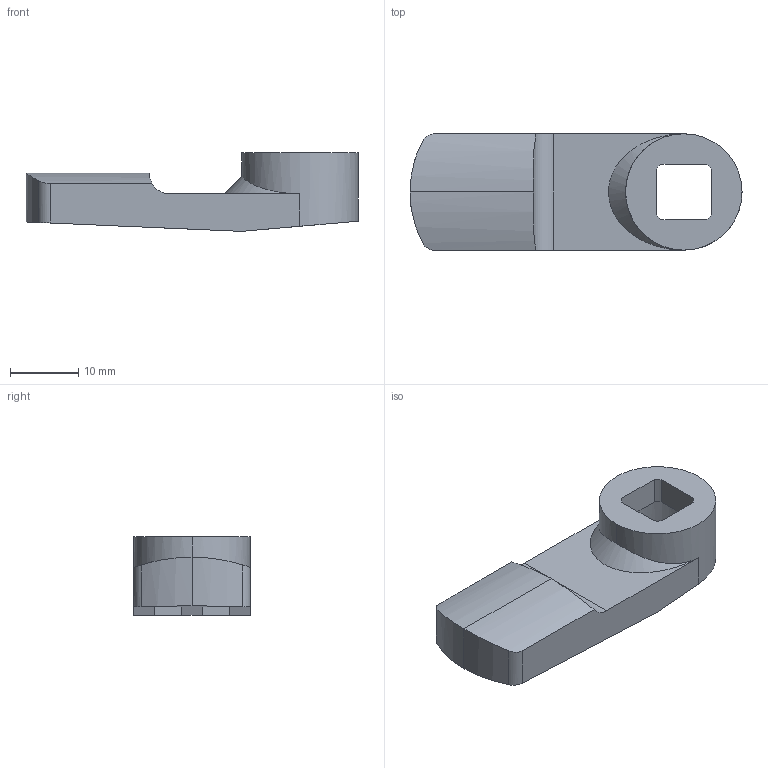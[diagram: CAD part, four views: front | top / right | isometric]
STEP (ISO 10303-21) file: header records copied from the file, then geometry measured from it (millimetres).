
FILE_DESCRIPTION (( 'STEP AP214' ), '1' );
FILE_NAME ('JP-10021.STEP', '2016-08-17T10:01:59', ( 'RST-Dolba' ), ( '' ), 'SwSTEP 2.0', 'SolidWorks 2015', '' );
FILE_SCHEMA (( 'AUTOMOTIVE_DESIGN' ));
Length unit declared in the file: millimetre
Products named in the file (1): JP-10021
Bounding box: 48.5 x 17 x 11.5 mm (x, y, z)
Volume: 4028.1 mm3; surface area: 3190.8 mm2
Topology: 1 solids, 1 shells, 49 faces, 129 edges, 85 vertices
Faces by surface type: plane 25, cylinder 23, bspline 1
Entity records: 1722 total; most frequent: CARTESIAN_POINT 484, ORIENTED_EDGE 258, DIRECTION 240, EDGE_CURVE 129, VERTEX_POINT 85, LINE 82, VECTOR 82, AXIS2_PLACEMENT_3D 79
